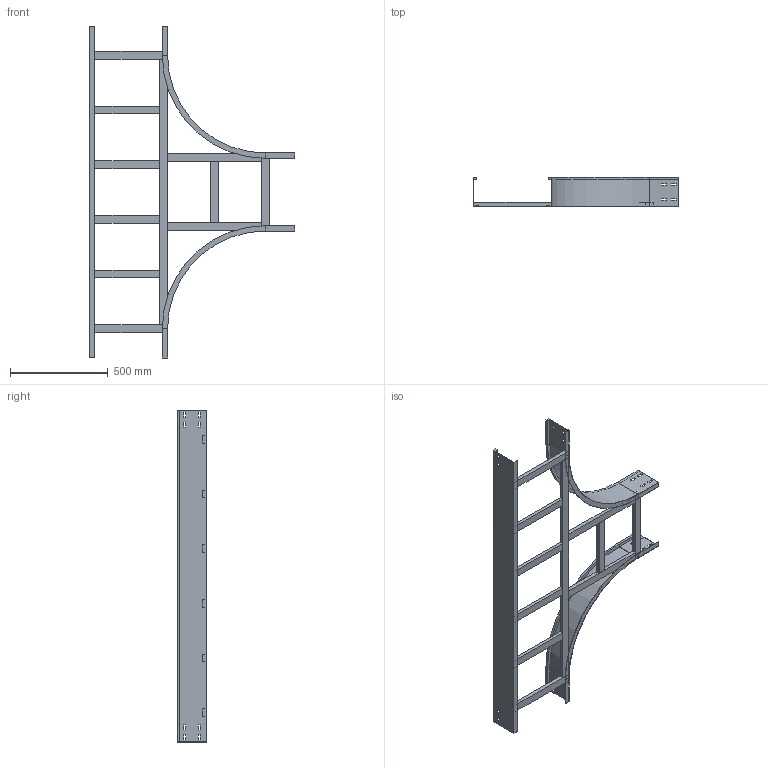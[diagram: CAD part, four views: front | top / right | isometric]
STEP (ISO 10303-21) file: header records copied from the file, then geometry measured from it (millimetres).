
FILE_DESCRIPTION (( 'STEP AP214' ), '1' );
FILE_NAME ('15J5F400.step', '2025-02-21T16:28:08', ( '' ), ( '' ), 'SwSTEP 2.0', 'SolidWorks 2023', '' );
FILE_SCHEMA (( 'AUTOMOTIVE_DESIGN' ));
Length unit declared in the file: millimetre
Products named in the file (8): TRAVERSINO_INTERMEDIO_R500+400; LONGH.INTERNO 90°_H150_R500; TRAVERSINO_VERT_R500; TRAVERSINO_COPPIA_400; TRAVERSINO_LONG._R500+400; 15J5F400; LONGH.RETT_H150_R500+400; TRAVERSINO_400
Assembly tree (14 placements, depth 2):
  15J5F400
    LONGH.INTERNO 90°_H150_R500  x2
    LONGH.RETT_H150_R500+400
    TRAVERSINO_400  x3
    TRAVERSINO_LONG._R500+400
    TRAVERSINO_INTERMEDIO_R500+400  x4
    TRAVERSINO_VERT_R500  x2
    TRAVERSINO_COPPIA_400
Bounding box: 1050 x 150 x 1700 mm (x, y, z)
Volume: 6347303.6 mm3; surface area: 2147669.7 mm2
Topology: 14 solids, 14 shells, 224 faces, 556 edges, 360 vertices
Faces by surface type: plane 216, cylinder 8
Entity records: 4209 total; most frequent: CARTESIAN_POINT 695, ORIENTED_EDGE 664, DIRECTION 634, EDGE_CURVE 332, VECTOR 324, LINE 324, VERTEX_POINT 216, EDGE_LOOP 162
